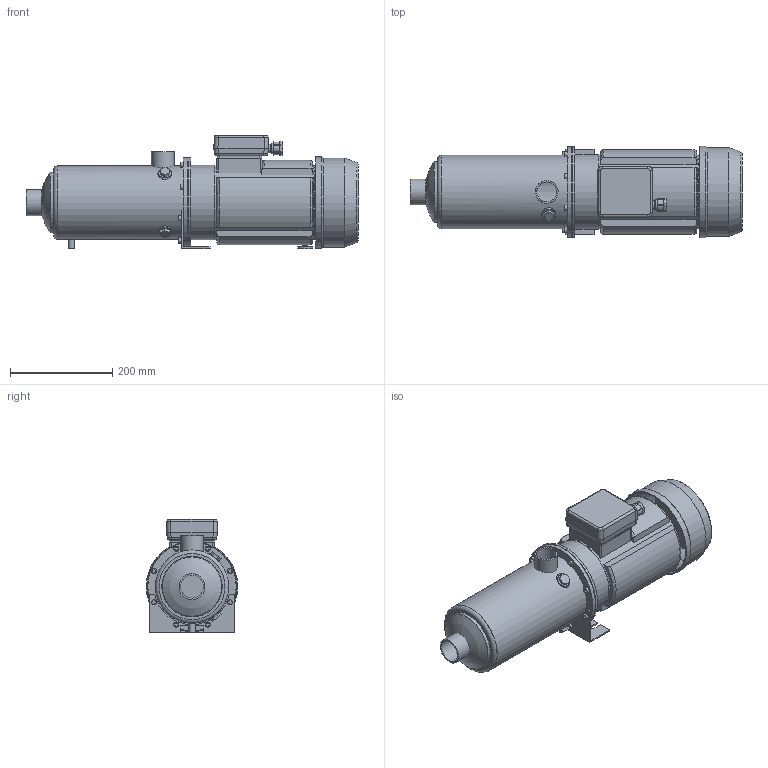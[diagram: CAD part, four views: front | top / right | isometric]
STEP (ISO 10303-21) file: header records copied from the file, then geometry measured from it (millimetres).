
FILE_DESCRIPTION(/* description */ ('Unknown'),/* implementation_level */ '2;1');
FILE_NAME(/* name */ 'MH 9 [8] T',/* time_stamp */ '2026-07-10T15:02:18+02:00',/* author */ ('Unknown'),/* organization */ ('Unknown'),/* preprocessor_version */ 'ST-DEVELOPER v20',/* originating_system */ 'Solid Edge',/* authorisation */ 'Unknown');
FILE_SCHEMA (('AUTOMOTIVE_DESIGN {1 0 10303 214 3 1 1}'));
Length unit declared in the file: millimetre
Products named in the file (10): MH 9 [8] T; Flangia motore Tonda M90; Corpo MH 9 [8]; Motore MEC 90 - T [3kW IE3]; carcassa MEC 90 [3kW IE3]; Copriventola MEC 90; Ghiera PG13,5 cod. SAV.GHI.20; Basetta MEC 80-90-100 T; Piedino MEC 90 int.90; Staffa 3-5-9 int.90
Assembly tree (9 placements, depth 3):
  MH 9 [8] T
    Flangia motore Tonda M90
    Corpo MH 9 [8]
    Motore MEC 90 - T [3kW IE3]
      carcassa MEC 90 [3kW IE3]
      Copriventola MEC 90
      Ghiera PG13,5 cod. SAV.GHI.20
      Basetta MEC 80-90-100 T
    Piedino MEC 90 int.90
    Staffa 3-5-9 int.90
Bounding box: 650.6 x 179.1 x 221.5 mm (x, y, z)
Volume: 3202001.5 mm3; surface area: 798488.5 mm2
Topology: 8 solids, 8 shells, 323 faces, 769 edges, 509 vertices
Faces by surface type: plane 181, cylinder 101, cone 20, torus 11, bspline 8, sphere 2
Full cylindrical faces by diameter (mm): 7 x4, 10 x9, 12 x1, 13 x1, 17 x1, 19.73 x1, 20.4 x1, 21 x1, 30 x1, 38.952 x1, 44.5 x1, 44.845 x1, 50.8 x1, 116.1 x1, 118.5 x1, 135 x1, 140 x3, 141.1 x1, 143.5 x1, 145 x1, 146 x1, 169.5 x1, 173.5 x1, 174.1 x2, 174.5 x1, 176.5 x2, 179.1 x1
Entity records: 10644 total; most frequent: CARTESIAN_POINT 1986, DIRECTION 1513, ORIENTED_EDGE 1354, EDGE_CURVE 677, AXIS2_PLACEMENT_3D 564, VERTEX_POINT 479, EDGE_LOOP 442, FACE_BOUND 442
